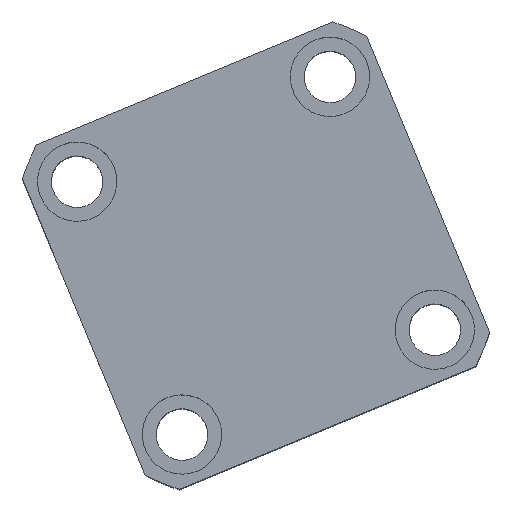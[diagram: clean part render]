
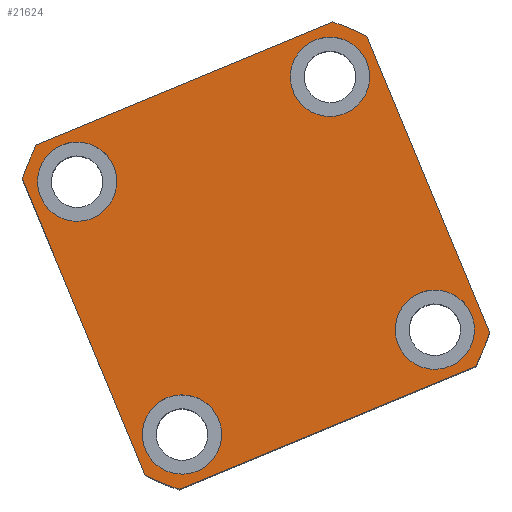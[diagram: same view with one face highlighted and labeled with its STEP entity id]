
A CAD part, top view. The second image highlights one B-rep face of the part: STEP entity #21624.
In plain terms, the highlighted planar face has unit normal (0, 0, 1) as drawn and (0, 0, -1) by its records, which use the part's own axes.
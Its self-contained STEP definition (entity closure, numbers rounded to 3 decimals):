
#6 = FACE_BOUND ( 'NONE', #14818, .T. ) ;
#284 = CARTESIAN_POINT ( 'NONE',  ( -34.5, -34.5, 0. ) ) ;
#667 = CIRCLE ( 'NONE', #20830, 10. ) ;
#790 = ORIENTED_EDGE ( 'NONE', *, *, #16622, .F. ) ;
#874 = CARTESIAN_POINT ( 'NONE',  ( -47., -47., 0. ) ) ;
#966 = EDGE_CURVE ( 'NONE', #2392, #19268, #16385, .T. ) ;
#979 = CARTESIAN_POINT ( 'NONE',  ( -47., 40.435, 0. ) ) ;
#1153 = ORIENTED_EDGE ( 'NONE', *, *, #21334, .F. ) ;
#2012 = DIRECTION ( 'NONE',  ( -1., 0., 0. ) ) ;
#2048 = EDGE_LOOP ( 'NONE', ( #7340, #10850, #1153, #6828, #3602, #790, #12912, #8120 ) ) ;
#2238 = VERTEX_POINT ( 'NONE', #14929 ) ;
#2392 = VERTEX_POINT ( 'NONE', #10005 ) ;
#2458 = LINE ( 'NONE', #13877, #11067 ) ;
#2524 = VERTEX_POINT ( 'NONE', #3452 ) ;
#2728 = DIRECTION ( 'NONE',  ( -1., 0., 0. ) ) ;
#2780 = EDGE_CURVE ( 'NONE', #15463, #3886, #20099, .T. ) ;
#2842 = ORIENTED_EDGE ( 'NONE', *, *, #4456, .F. ) ;
#3038 = AXIS2_PLACEMENT_3D ( 'NONE', #5259, #17323, #6977 ) ;
#3087 = PLANE ( 'NONE',  #10340 ) ;
#3162 = DIRECTION ( 'NONE',  ( 0., 0., -1. ) ) ;
#3203 = CARTESIAN_POINT ( 'NONE',  ( 44.5, -34.5, 0. ) ) ;
#3324 = LINE ( 'NONE', #9488, #16025 ) ;
#3452 = CARTESIAN_POINT ( 'NONE',  ( -40.435, -47., 0. ) ) ;
#3486 = FACE_OUTER_BOUND ( 'NONE', #2048, .T. ) ;
#3602 = ORIENTED_EDGE ( 'NONE', *, *, #8423, .F. ) ;
#3651 = CARTESIAN_POINT ( 'NONE',  ( -34.5, 34.5, 0. ) ) ;
#3659 = ORIENTED_EDGE ( 'NONE', *, *, #8744, .F. ) ;
#3886 = VERTEX_POINT ( 'NONE', #21392 ) ;
#3947 = VERTEX_POINT ( 'NONE', #18045 ) ;
#4249 = CARTESIAN_POINT ( 'NONE',  ( 24.5, 34.5, 0. ) ) ;
#4330 = EDGE_CURVE ( 'NONE', #17684, #14284, #667, .T. ) ;
#4456 = EDGE_CURVE ( 'NONE', #16275, #3947, #13858, .T. ) ;
#4562 = AXIS2_PLACEMENT_3D ( 'NONE', #9479, #21602, #11237 ) ;
#4591 = DIRECTION ( 'NONE',  ( 0., 0., 1. ) ) ;
#5035 = CARTESIAN_POINT ( 'NONE',  ( 34.5, -34.5, 0. ) ) ;
#5067 = AXIS2_PLACEMENT_3D ( 'NONE', #10123, #22253, #11894 ) ;
#5108 = CIRCLE ( 'NONE', #21292, 10. ) ;
#5259 = CARTESIAN_POINT ( 'NONE',  ( -34.5, -34.5, 0. ) ) ;
#5380 = DIRECTION ( 'NONE',  ( -1., 0., 0. ) ) ;
#5506 = CARTESIAN_POINT ( 'NONE',  ( 0., 0., 0. ) ) ;
#5618 = EDGE_CURVE ( 'NONE', #21118, #5720, #3324, .T. ) ;
#5720 = VERTEX_POINT ( 'NONE', #11395 ) ;
#5801 = AXIS2_PLACEMENT_3D ( 'NONE', #5506, #17571, #7230 ) ;
#6104 = AXIS2_PLACEMENT_3D ( 'NONE', #3651, #15723, #5380 ) ;
#6117 = AXIS2_PLACEMENT_3D ( 'NONE', #14939, #4591, #16987 ) ;
#6246 = VERTEX_POINT ( 'NONE', #17710 ) ;
#6405 = CARTESIAN_POINT ( 'NONE',  ( 47., 40.435, 0. ) ) ;
#6768 = DIRECTION ( 'NONE',  ( -1., 0., 0. ) ) ;
#6828 = ORIENTED_EDGE ( 'NONE', *, *, #15476, .F. ) ;
#6977 = DIRECTION ( 'NONE',  ( -1., 0., 0. ) ) ;
#7230 = DIRECTION ( 'NONE',  ( 1., 0., 0. ) ) ;
#7340 = ORIENTED_EDGE ( 'NONE', *, *, #9107, .F. ) ;
#7942 = EDGE_LOOP ( 'NONE', ( #2842, #3659 ) ) ;
#8046 = FACE_BOUND ( 'NONE', #17395, .T. ) ;
#8120 = ORIENTED_EDGE ( 'NONE', *, *, #5618, .F. ) ;
#8225 = EDGE_LOOP ( 'NONE', ( #22003, #12845 ) ) ;
#8423 = EDGE_CURVE ( 'NONE', #2238, #2524, #19889, .T. ) ;
#8671 = CARTESIAN_POINT ( 'NONE',  ( 34.5, 34.5, 0. ) ) ;
#8744 = EDGE_CURVE ( 'NONE', #3947, #16275, #5108, .T. ) ;
#9107 = EDGE_CURVE ( 'NONE', #13585, #21118, #21343, .T. ) ;
#9146 = CIRCLE ( 'NONE', #4562, 62. ) ;
#9392 = DIRECTION ( 'NONE',  ( 0., 0., -1. ) ) ;
#9479 = CARTESIAN_POINT ( 'NONE',  ( 0., 0., 0. ) ) ;
#9488 = CARTESIAN_POINT ( 'NONE',  ( -47., 47., 0. ) ) ;
#9530 = AXIS2_PLACEMENT_3D ( 'NONE', #15027, #14734, #20359 ) ;
#9937 = CARTESIAN_POINT ( 'NONE',  ( -44.5, -34.5, 0. ) ) ;
#10005 = CARTESIAN_POINT ( 'NONE',  ( -24.5, 34.5, 0. ) ) ;
#10075 = DIRECTION ( 'NONE',  ( 1., 0., 0. ) ) ;
#10123 = CARTESIAN_POINT ( 'NONE',  ( 0., 0., 0. ) ) ;
#10203 = LINE ( 'NONE', #21875, #19428 ) ;
#10340 = AXIS2_PLACEMENT_3D ( 'NONE', #18697, #20451, #10075 ) ;
#10415 = DIRECTION ( 'NONE',  ( -1., 0., 0. ) ) ;
#10850 = ORIENTED_EDGE ( 'NONE', *, *, #19440, .F. ) ;
#11067 = VECTOR ( 'NONE', #12152, 1000. ) ;
#11237 = DIRECTION ( 'NONE',  ( 1., 0., 0. ) ) ;
#11395 = CARTESIAN_POINT ( 'NONE',  ( -40.435, 47., 0. ) ) ;
#11451 = CARTESIAN_POINT ( 'NONE',  ( 24.5, -34.5, 0. ) ) ;
#11633 = CIRCLE ( 'NONE', #6117, 62. ) ;
#11660 = EDGE_CURVE ( 'NONE', #14284, #17684, #14787, .T. ) ;
#11894 = DIRECTION ( 'NONE',  ( 1., 0., 0. ) ) ;
#11906 = VECTOR ( 'NONE', #12923, 1000. ) ;
#12152 = DIRECTION ( 'NONE',  ( 0., -1., 0. ) ) ;
#12328 = DIRECTION ( 'NONE',  ( 0., 0., -1. ) ) ;
#12671 = FACE_BOUND ( 'NONE', #7942, .T. ) ;
#12845 = ORIENTED_EDGE ( 'NONE', *, *, #11660, .F. ) ;
#12912 = ORIENTED_EDGE ( 'NONE', *, *, #15056, .F. ) ;
#12923 = DIRECTION ( 'NONE',  ( 1., 0., 0. ) ) ;
#13314 = DIRECTION ( 'NONE',  ( 0., 1., 0. ) ) ;
#13487 = CARTESIAN_POINT ( 'NONE',  ( 34.5, -34.5, 0. ) ) ;
#13585 = VERTEX_POINT ( 'NONE', #6405 ) ;
#13858 = CIRCLE ( 'NONE', #3038, 10. ) ;
#13877 = CARTESIAN_POINT ( 'NONE',  ( -47., 47., 0. ) ) ;
#14046 = AXIS2_PLACEMENT_3D ( 'NONE', #19766, #9392, #21507 ) ;
#14136 = ORIENTED_EDGE ( 'NONE', *, *, #2780, .F. ) ;
#14284 = VERTEX_POINT ( 'NONE', #3203 ) ;
#14374 = EDGE_CURVE ( 'NONE', #3886, #15463, #20020, .T. ) ;
#14470 = EDGE_CURVE ( 'NONE', #19268, #2392, #19493, .T. ) ;
#14614 = VERTEX_POINT ( 'NONE', #15879 ) ;
#14734 = DIRECTION ( 'NONE',  ( 0., 0., -1. ) ) ;
#14787 = CIRCLE ( 'NONE', #19114, 10. ) ;
#14818 = EDGE_LOOP ( 'NONE', ( #16601, #17935 ) ) ;
#14929 = CARTESIAN_POINT ( 'NONE',  ( -47., -40.435, 0. ) ) ;
#14939 = CARTESIAN_POINT ( 'NONE',  ( 0., 0., 0. ) ) ;
#15027 = CARTESIAN_POINT ( 'NONE',  ( -34.5, 34.5, 0. ) ) ;
#15056 = EDGE_CURVE ( 'NONE', #5720, #19137, #11633, .T. ) ;
#15232 = DIRECTION ( 'NONE',  ( -1., 0., 0. ) ) ;
#15463 = VERTEX_POINT ( 'NONE', #4249 ) ;
#15476 = EDGE_CURVE ( 'NONE', #2524, #6246, #16480, .T. ) ;
#15723 = DIRECTION ( 'NONE',  ( 0., 0., -1. ) ) ;
#15879 = CARTESIAN_POINT ( 'NONE',  ( 47., -40.435, 0. ) ) ;
#16025 = VECTOR ( 'NONE', #2728, 1000. ) ;
#16275 = VERTEX_POINT ( 'NONE', #9937 ) ;
#16385 = CIRCLE ( 'NONE', #9530, 10. ) ;
#16480 = LINE ( 'NONE', #874, #11906 ) ;
#16494 = CARTESIAN_POINT ( 'NONE',  ( -44.5, 34.5, 0. ) ) ;
#16601 = ORIENTED_EDGE ( 'NONE', *, *, #14470, .F. ) ;
#16622 = EDGE_CURVE ( 'NONE', #19137, #2238, #2458, .T. ) ;
#16987 = DIRECTION ( 'NONE',  ( 1., 0., 0. ) ) ;
#17119 = DIRECTION ( 'NONE',  ( 0., 0., -1. ) ) ;
#17323 = DIRECTION ( 'NONE',  ( 0., 0., -1. ) ) ;
#17395 = EDGE_LOOP ( 'NONE', ( #14136, #21689 ) ) ;
#17571 = DIRECTION ( 'NONE',  ( 0., 0., 1. ) ) ;
#17684 = VERTEX_POINT ( 'NONE', #11451 ) ;
#17710 = CARTESIAN_POINT ( 'NONE',  ( 40.435, -47., 0. ) ) ;
#17935 = ORIENTED_EDGE ( 'NONE', *, *, #966, .F. ) ;
#18045 = CARTESIAN_POINT ( 'NONE',  ( -24.5, -34.5, 0. ) ) ;
#18697 = CARTESIAN_POINT ( 'NONE',  ( 0., 0., 0. ) ) ;
#19114 = AXIS2_PLACEMENT_3D ( 'NONE', #13487, #3162, #15232 ) ;
#19137 = VERTEX_POINT ( 'NONE', #979 ) ;
#19268 = VERTEX_POINT ( 'NONE', #16494 ) ;
#19408 = CARTESIAN_POINT ( 'NONE',  ( 40.435, 47., 0. ) ) ;
#19428 = VECTOR ( 'NONE', #13314, 1000. ) ;
#19440 = EDGE_CURVE ( 'NONE', #14614, #13585, #10203, .T. ) ;
#19493 = CIRCLE ( 'NONE', #6104, 10. ) ;
#19766 = CARTESIAN_POINT ( 'NONE',  ( 34.5, 34.5, 0. ) ) ;
#19889 = CIRCLE ( 'NONE', #5067, 62. ) ;
#20020 = CIRCLE ( 'NONE', #21616, 10. ) ;
#20099 = CIRCLE ( 'NONE', #14046, 10. ) ;
#20359 = DIRECTION ( 'NONE',  ( -1., 0., 0. ) ) ;
#20451 = DIRECTION ( 'NONE',  ( 0., 0., 1. ) ) ;
#20793 = DIRECTION ( 'NONE',  ( 0., 0., -1. ) ) ;
#20830 = AXIS2_PLACEMENT_3D ( 'NONE', #5035, #17119, #6768 ) ;
#21118 = VERTEX_POINT ( 'NONE', #19408 ) ;
#21292 = AXIS2_PLACEMENT_3D ( 'NONE', #284, #12328, #2012 ) ;
#21334 = EDGE_CURVE ( 'NONE', #6246, #14614, #9146, .T. ) ;
#21343 = CIRCLE ( 'NONE', #5801, 62. ) ;
#21392 = CARTESIAN_POINT ( 'NONE',  ( 44.5, 34.5, 0. ) ) ;
#21507 = DIRECTION ( 'NONE',  ( -1., 0., 0. ) ) ;
#21602 = DIRECTION ( 'NONE',  ( 0., 0., 1. ) ) ;
#21616 = AXIS2_PLACEMENT_3D ( 'NONE', #8671, #20793, #10415 ) ;
#21624 = ADVANCED_FACE ( 'NONE', ( #21867, #12671, #6, #8046, #3486 ), #3087, .F. ) ;
#21689 = ORIENTED_EDGE ( 'NONE', *, *, #14374, .F. ) ;
#21867 = FACE_BOUND ( 'NONE', #8225, .T. ) ;
#21875 = CARTESIAN_POINT ( 'NONE',  ( 47., 47., 0. ) ) ;
#22003 = ORIENTED_EDGE ( 'NONE', *, *, #4330, .F. ) ;
#22253 = DIRECTION ( 'NONE',  ( 0., 0., 1. ) ) ;
